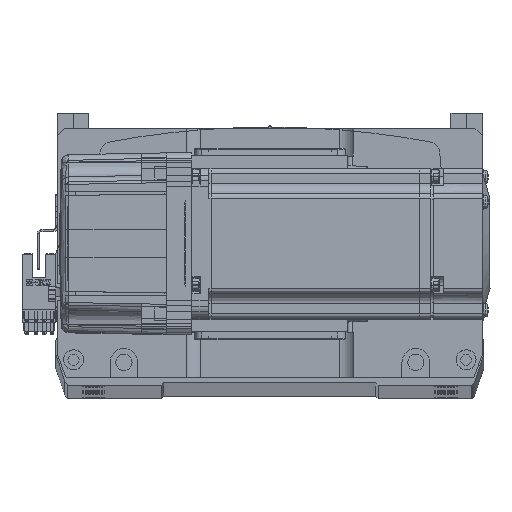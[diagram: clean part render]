
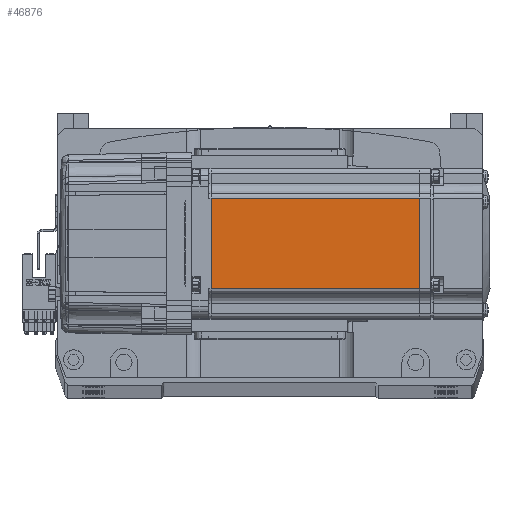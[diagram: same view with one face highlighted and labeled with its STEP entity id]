
A CAD part, top view. The second image highlights one B-rep face of the part: STEP entity #46876.
In plain terms, the highlighted planar face has unit normal (0, 0, 1) as drawn and (0, -1, 0) by its records, which use the part's own axes.
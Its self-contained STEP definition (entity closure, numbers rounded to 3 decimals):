
#342 = VECTOR ( 'NONE', #30931, 1000. ) ;
#1438 = LINE ( 'NONE', #48377, #39865 ) ;
#1722 = PLANE ( 'NONE',  #50307 ) ;
#3268 = CARTESIAN_POINT ( 'NONE',  ( -90.45, -30., -18. ) ) ;
#4673 = DIRECTION ( 'NONE',  ( 1., 0., 0. ) ) ;
#5091 = VECTOR ( 'NONE', #36237, 1000. ) ;
#5916 = LINE ( 'NONE', #13984, #5091 ) ;
#7200 = CARTESIAN_POINT ( 'NONE',  ( -6.5, -30., -25. ) ) ;
#8192 = ORIENTED_EDGE ( 'NONE', *, *, #24956, .T. ) ;
#13984 = CARTESIAN_POINT ( 'NONE',  ( -7.75, -30., -25. ) ) ;
#17998 = CARTESIAN_POINT ( 'NONE',  ( -7.75, -30., 18. ) ) ;
#24956 = EDGE_CURVE ( 'NONE', #51960, #57252, #32204, .T. ) ;
#30753 = EDGE_CURVE ( 'NONE', #57252, #63240, #58532, .T. ) ;
#30931 = DIRECTION ( 'NONE',  ( 0., 0., -1. ) ) ;
#32204 = LINE ( 'NONE', #41072, #41528 ) ;
#32281 = EDGE_LOOP ( 'NONE', ( #42542, #8192, #34137, #39500 ) ) ;
#32420 = CARTESIAN_POINT ( 'NONE',  ( -7.75, -30., -18. ) ) ;
#32434 = EDGE_CURVE ( 'NONE', #45226, #51960, #5916, .T. ) ;
#34137 = ORIENTED_EDGE ( 'NONE', *, *, #30753, .T. ) ;
#36237 = DIRECTION ( 'NONE',  ( 0., 0., 1. ) ) ;
#39500 = ORIENTED_EDGE ( 'NONE', *, *, #55945, .T. ) ;
#39865 = VECTOR ( 'NONE', #4673, 1000. ) ;
#41072 = CARTESIAN_POINT ( 'NONE',  ( -6.5, -30., 18. ) ) ;
#41528 = VECTOR ( 'NONE', #46129, 1000. ) ;
#42542 = ORIENTED_EDGE ( 'NONE', *, *, #32434, .T. ) ;
#45226 = VERTEX_POINT ( 'NONE', #32420 ) ;
#46129 = DIRECTION ( 'NONE',  ( -1., 0., 0. ) ) ;
#46876 = ADVANCED_FACE ( 'NONE', ( #55331 ), #1722, .T. ) ;
#48377 = CARTESIAN_POINT ( 'NONE',  ( -6.5, -30., -18. ) ) ;
#50307 = AXIS2_PLACEMENT_3D ( 'NONE', #7200, #50920, #56723 ) ;
#50920 = DIRECTION ( 'NONE',  ( 0., -1., 0. ) ) ;
#51960 = VERTEX_POINT ( 'NONE', #17998 ) ;
#55331 = FACE_OUTER_BOUND ( 'NONE', #32281, .T. ) ;
#55945 = EDGE_CURVE ( 'NONE', #63240, #45226, #1438, .T. ) ;
#56723 = DIRECTION ( 'NONE',  ( 0., 0., -1. ) ) ;
#57252 = VERTEX_POINT ( 'NONE', #66865 ) ;
#58532 = LINE ( 'NONE', #68472, #342 ) ;
#63240 = VERTEX_POINT ( 'NONE', #3268 ) ;
#66865 = CARTESIAN_POINT ( 'NONE',  ( -90.45, -30., 18. ) ) ;
#68472 = CARTESIAN_POINT ( 'NONE',  ( -90.45, -30., -25. ) ) ;
